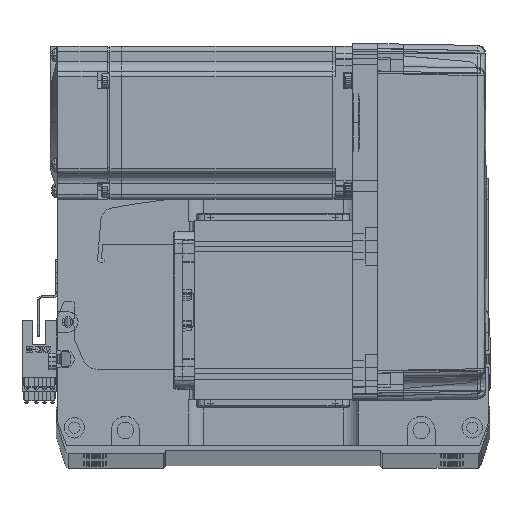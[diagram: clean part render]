
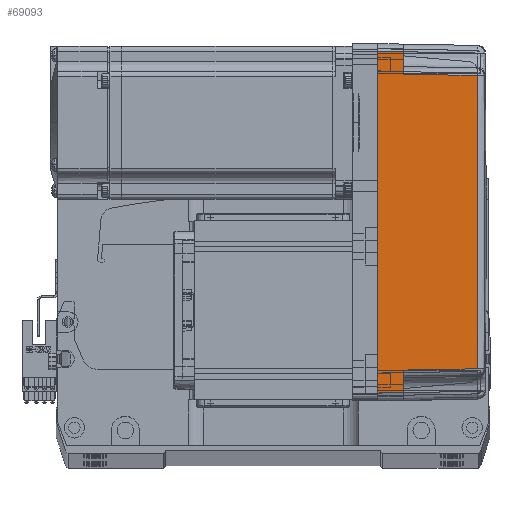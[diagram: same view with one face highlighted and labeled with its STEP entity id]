
A CAD part, top view. The second image highlights one B-rep face of the part: STEP entity #69093.
In plain terms, the highlighted planar face has unit normal (0.018, 0, 1) as drawn and (0, -1, 0.017) by its records, which use the part's own axes.
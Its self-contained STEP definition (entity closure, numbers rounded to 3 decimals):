
#1727 = B_SPLINE_CURVE_WITH_KNOTS ( 'NONE', 3,
 ( #4170, #9739, #15430, #54635 ),
 .UNSPECIFIED., .F., .F.,
 ( 4, 4 ),
 ( 0., 1. ),
 .UNSPECIFIED. ) ;
#2328 = VERTEX_POINT ( 'NONE', #9061 ) ;
#3682 = EDGE_CURVE ( 'NONE', #52847, #2328, #36889, .T. ) ;
#4170 = CARTESIAN_POINT ( 'NONE',  ( 57.495, -35.32, 38.985 ) ) ;
#4592 = CARTESIAN_POINT ( 'NONE',  ( 66.826, -35.825, 10. ) ) ;
#6174 = VECTOR ( 'NONE', #8095, 1000. ) ;
#6180 = VERTEX_POINT ( 'NONE', #58002 ) ;
#6399 = VECTOR ( 'NONE', #56813, 1000. ) ;
#8095 = DIRECTION ( 'NONE',  ( -0.017, -0.017, -1. ) ) ;
#8587 = CARTESIAN_POINT ( 'NONE',  ( -66.826, -35.825, 10. ) ) ;
#8870 = VERTEX_POINT ( 'NONE', #4592 ) ;
#9061 = CARTESIAN_POINT ( 'NONE',  ( -58., -35.825, 10. ) ) ;
#9739 = CARTESIAN_POINT ( 'NONE',  ( 19.165, -35.316, 39.181 ) ) ;
#11658 = ORIENTED_EDGE ( 'NONE', *, *, #61666, .F. ) ;
#13165 = LINE ( 'NONE', #28504, #43006 ) ;
#13517 = CARTESIAN_POINT ( 'NONE',  ( -57.495, -35.32, 38.985 ) ) ;
#15430 = CARTESIAN_POINT ( 'NONE',  ( -19.165, -35.316, 39.181 ) ) ;
#16671 = LINE ( 'NONE', #38008, #61387 ) ;
#16980 = LINE ( 'NONE', #17576, #6399 ) ;
#17576 = CARTESIAN_POINT ( 'NONE',  ( -66.959, -35.958, 2.39 ) ) ;
#21472 = ORIENTED_EDGE ( 'NONE', *, *, #62055, .T. ) ;
#21578 = VERTEX_POINT ( 'NONE', #51742 ) ;
#22216 = CARTESIAN_POINT ( 'NONE',  ( 0., -36., 0. ) ) ;
#22689 = DIRECTION ( 'NONE',  ( -1., 0., 0. ) ) ;
#23716 = CARTESIAN_POINT ( 'NONE',  ( 57.495, -35.32, 38.985 ) ) ;
#24285 = VECTOR ( 'NONE', #22689, 1000. ) ;
#26136 = CARTESIAN_POINT ( 'NONE',  ( 70., -36., 0. ) ) ;
#26452 = DIRECTION ( 'NONE',  ( -1., 0., 0. ) ) ;
#27994 = ORIENTED_EDGE ( 'NONE', *, *, #44202, .F. ) ;
#28155 = LINE ( 'NONE', #46949, #71054 ) ;
#28504 = CARTESIAN_POINT ( 'NONE',  ( 70., -35.825, 10. ) ) ;
#30473 = VERTEX_POINT ( 'NONE', #8587 ) ;
#33143 = ORIENTED_EDGE ( 'NONE', *, *, #57849, .T. ) ;
#33342 = VERTEX_POINT ( 'NONE', #65609 ) ;
#36889 = LINE ( 'NONE', #13517, #6174 ) ;
#38008 = CARTESIAN_POINT ( 'NONE',  ( 70., -35.825, 10. ) ) ;
#38169 = PLANE ( 'NONE',  #41158 ) ;
#41158 = AXIS2_PLACEMENT_3D ( 'NONE', #26136, #54785, #59954 ) ;
#43006 = VECTOR ( 'NONE', #68676, 1000. ) ;
#44091 = EDGE_LOOP ( 'NONE', ( #70767, #71889, #21472, #44920, #52407, #33143, #11658, #27994 ) ) ;
#44202 = EDGE_CURVE ( 'NONE', #33342, #6180, #62860, .T. ) ;
#44920 = ORIENTED_EDGE ( 'NONE', *, *, #52412, .T. ) ;
#45644 = DIRECTION ( 'NONE',  ( -0.017, 0.017, 1. ) ) ;
#46624 = LINE ( 'NONE', #51758, #53648 ) ;
#46949 = CARTESIAN_POINT ( 'NONE',  ( 67., -36., 0. ) ) ;
#51742 = CARTESIAN_POINT ( 'NONE',  ( 58., -35.825, 10. ) ) ;
#51758 = CARTESIAN_POINT ( 'NONE',  ( 58., -35.825, 10. ) ) ;
#52407 = ORIENTED_EDGE ( 'NONE', *, *, #3682, .T. ) ;
#52412 = EDGE_CURVE ( 'NONE', #63576, #52847, #1727, .T. ) ;
#52847 = VERTEX_POINT ( 'NONE', #66284 ) ;
#53648 = VECTOR ( 'NONE', #45644, 1000. ) ;
#53672 = EDGE_CURVE ( 'NONE', #8870, #21578, #13165, .T. ) ;
#54635 = CARTESIAN_POINT ( 'NONE',  ( -57.495, -35.32, 38.985 ) ) ;
#54785 = DIRECTION ( 'NONE',  ( 0., -1., 0.017 ) ) ;
#55445 = FACE_OUTER_BOUND ( 'NONE', #44091, .T. ) ;
#56813 = DIRECTION ( 'NONE',  ( 0.017, 0.017, 1. ) ) ;
#57849 = EDGE_CURVE ( 'NONE', #2328, #30473, #16671, .T. ) ;
#58002 = CARTESIAN_POINT ( 'NONE',  ( -67., -36., 0. ) ) ;
#59954 = DIRECTION ( 'NONE',  ( 0., -0.017, -1. ) ) ;
#61387 = VECTOR ( 'NONE', #26452, 1000. ) ;
#61666 = EDGE_CURVE ( 'NONE', #6180, #30473, #16980, .T. ) ;
#62055 = EDGE_CURVE ( 'NONE', #21578, #63576, #46624, .T. ) ;
#62860 = LINE ( 'NONE', #22216, #24285 ) ;
#63467 = EDGE_CURVE ( 'NONE', #33342, #8870, #28155, .T. ) ;
#63576 = VERTEX_POINT ( 'NONE', #23716 ) ;
#65609 = CARTESIAN_POINT ( 'NONE',  ( 67., -36., 0. ) ) ;
#66284 = CARTESIAN_POINT ( 'NONE',  ( -57.495, -35.32, 38.985 ) ) ;
#68676 = DIRECTION ( 'NONE',  ( -1., 0., 0. ) ) ;
#68781 = DIRECTION ( 'NONE',  ( -0.017, 0.017, 1. ) ) ;
#69093 = ADVANCED_FACE ( 'NONE', ( #55445 ), #38169, .T. ) ;
#70767 = ORIENTED_EDGE ( 'NONE', *, *, #63467, .T. ) ;
#71054 = VECTOR ( 'NONE', #68781, 1000. ) ;
#71889 = ORIENTED_EDGE ( 'NONE', *, *, #53672, .T. ) ;
